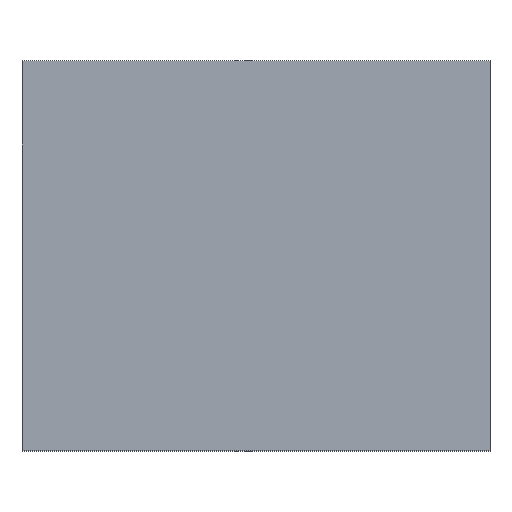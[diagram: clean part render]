
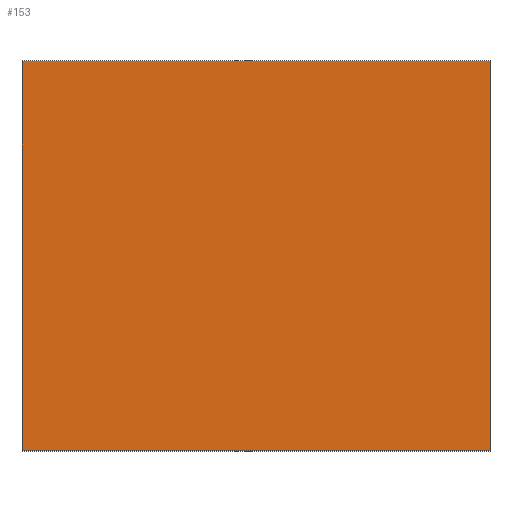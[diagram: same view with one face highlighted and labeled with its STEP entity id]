
A CAD part, top view. The second image highlights one B-rep face of the part: STEP entity #153.
In plain terms, the highlighted planar face has unit normal (0, 0, 1).
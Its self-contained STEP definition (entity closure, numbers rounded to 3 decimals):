
#24 = VERTEX_POINT('',#25);
#25 = CARTESIAN_POINT('',(-42.,-35.,48.));
#40 = VERTEX_POINT('',#41);
#41 = CARTESIAN_POINT('',(-42.,35.,48.));
#47 = EDGE_CURVE('',#24,#40,#48,.T.);
#48 = LINE('',#49,#50);
#49 = CARTESIAN_POINT('',(-42.,-35.,48.));
#50 = VECTOR('',#51,1.);
#51 = DIRECTION('',(0.,1.,0.));
#64 = VERTEX_POINT('',#65);
#65 = CARTESIAN_POINT('',(42.,-35.,48.));
#80 = VERTEX_POINT('',#81);
#81 = CARTESIAN_POINT('',(42.,35.,48.));
#87 = EDGE_CURVE('',#64,#80,#88,.T.);
#88 = LINE('',#89,#90);
#89 = CARTESIAN_POINT('',(42.,-35.,48.));
#90 = VECTOR('',#91,1.);
#91 = DIRECTION('',(0.,1.,0.));
#108 = EDGE_CURVE('',#24,#64,#109,.T.);
#109 = LINE('',#110,#111);
#110 = CARTESIAN_POINT('',(-42.,-35.,48.));
#111 = VECTOR('',#112,1.);
#112 = DIRECTION('',(1.,0.,0.));
#130 = EDGE_CURVE('',#40,#80,#131,.T.);
#131 = LINE('',#132,#133);
#132 = CARTESIAN_POINT('',(-42.,35.,48.));
#133 = VECTOR('',#134,1.);
#134 = DIRECTION('',(1.,0.,0.));
#153 = ADVANCED_FACE('',(#154),#160,.T.);
#154 = FACE_BOUND('',#155,.T.);
#155 = EDGE_LOOP('',(#156,#157,#158,#159));
#156 = ORIENTED_EDGE('',*,*,#47,.F.);
#157 = ORIENTED_EDGE('',*,*,#108,.T.);
#158 = ORIENTED_EDGE('',*,*,#87,.T.);
#159 = ORIENTED_EDGE('',*,*,#130,.F.);
#160 = PLANE('',#161);
#161 = AXIS2_PLACEMENT_3D('',#162,#163,#164);
#162 = CARTESIAN_POINT('',(-42.,-35.,48.));
#163 = DIRECTION('',(0.,0.,1.));
#164 = DIRECTION('',(1.,0.,0.));
